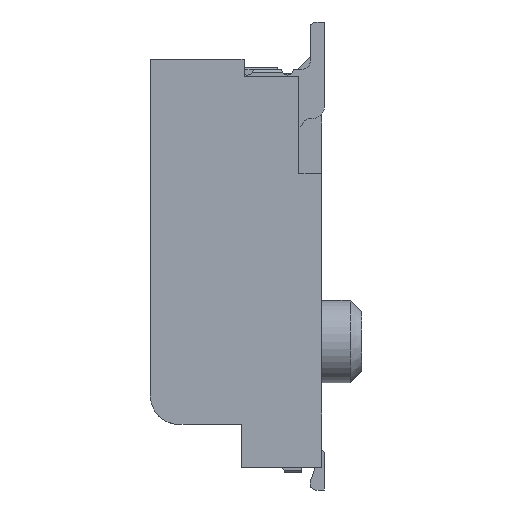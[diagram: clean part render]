
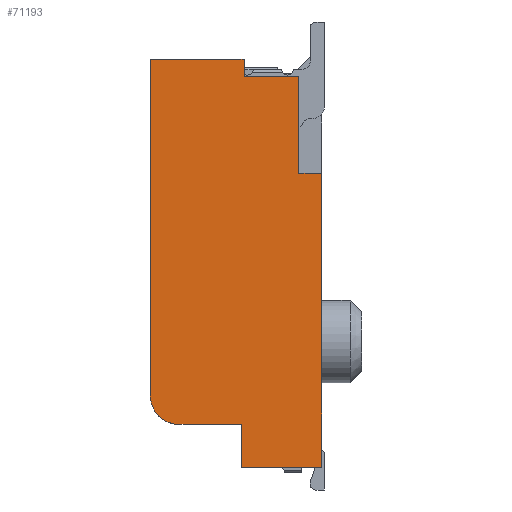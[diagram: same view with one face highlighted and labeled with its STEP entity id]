
A CAD part, left-side view. The second image highlights one B-rep face of the part: STEP entity #71193.
In plain terms, the highlighted planar face has unit normal (-1, 0, 0).
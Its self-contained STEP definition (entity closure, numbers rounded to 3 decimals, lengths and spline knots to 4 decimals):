
#445=DIRECTION('',(0.,1.,0.));
#446=VECTOR('',#445,0.96);
#447=CARTESIAN_POINT('',(-17.09,1.1,-0.95));
#448=LINE('',#447,#446);
#1551=DIRECTION('',(0.,0.,-1.));
#1552=VECTOR('',#1551,5.15);
#1553=CARTESIAN_POINT('',(-17.09,0.7,-2.65));
#1554=LINE('',#1553,#1552);
#1555=DIRECTION('',(0.,1.,0.));
#1556=VECTOR('',#1555,1.4);
#1557=CARTESIAN_POINT('',(-17.09,0.7,-7.8));
#1558=LINE('',#1557,#1556);
#1559=CARTESIAN_POINT('',(-17.09,3.2,-6.55));
#1560=DIRECTION('',(1.,0.,0.));
#1561=DIRECTION('',(0.,0.,-1.));
#1562=AXIS2_PLACEMENT_3D('',#1559,#1560,#1561);
#1564=DIRECTION('',(0.,-1.,0.));
#1565=VECTOR('',#1564,1.64);
#1566=CARTESIAN_POINT('',(-17.09,3.7,-0.65));
#1567=LINE('',#1566,#1565);
#1572=DIRECTION('',(0.,1.,0.));
#1573=VECTOR('',#1572,0.4);
#1574=CARTESIAN_POINT('',(-17.09,0.7,-2.65));
#1575=LINE('',#1574,#1573);
#1860=DIRECTION('',(0.,0.,1.));
#1861=VECTOR('',#1860,1.7);
#1862=CARTESIAN_POINT('',(-17.09,1.1,-2.65));
#1863=LINE('',#1862,#1861);
#20703=DIRECTION('',(0.,0.,-1.));
#20704=VECTOR('',#20703,5.9);
#20705=CARTESIAN_POINT('',(-17.09,3.7,-0.65));
#20706=LINE('',#20705,#20704);
#23802=DIRECTION('',(0.,-1.,0.));
#23803=VECTOR('',#23802,1.1);
#23804=CARTESIAN_POINT('',(-17.09,3.2,-7.05));
#23805=LINE('',#23804,#23803);
#23819=DIRECTION('',(0.,0.,-1.));
#23820=VECTOR('',#23819,0.75);
#23821=CARTESIAN_POINT('',(-17.09,2.1,-7.05));
#23822=LINE('',#23821,#23820);
#29805=DIRECTION('',(0.,0.,1.));
#29806=VECTOR('',#29805,0.3);
#29807=CARTESIAN_POINT('',(-17.09,2.06,-0.95));
#29808=LINE('',#29807,#29806);
#52438=CARTESIAN_POINT('',(-17.09,3.7,-0.65));
#52439=VERTEX_POINT('',#52438);
#52440=CARTESIAN_POINT('',(-17.09,3.7,-6.55));
#52441=VERTEX_POINT('',#52440);
#55708=CARTESIAN_POINT('',(-17.09,0.7,-7.8));
#55709=CARTESIAN_POINT('',(-17.09,2.1,-7.8));
#55710=VERTEX_POINT('',#55708);
#55711=VERTEX_POINT('',#55709);
#55718=CARTESIAN_POINT('',(-17.09,0.7,-2.65));
#55719=CARTESIAN_POINT('',(-17.09,1.1,-2.65));
#55720=VERTEX_POINT('',#55718);
#55721=VERTEX_POINT('',#55719);
#55722=CARTESIAN_POINT('',(-17.09,2.1,-7.05));
#55723=VERTEX_POINT('',#55722);
#55724=CARTESIAN_POINT('',(-17.09,3.2,-7.05));
#55725=VERTEX_POINT('',#55724);
#55726=CARTESIAN_POINT('',(-17.09,2.06,-0.65));
#55727=VERTEX_POINT('',#55726);
#55728=CARTESIAN_POINT('',(-17.09,2.06,-0.95));
#55729=VERTEX_POINT('',#55728);
#55730=CARTESIAN_POINT('',(-17.09,1.1,-0.95));
#55731=VERTEX_POINT('',#55730);
#71167=CARTESIAN_POINT('',(-17.09,2.2,-4.225));
#71168=DIRECTION('',(1.,0.,0.));
#71169=DIRECTION('',(0.,0.,-1.));
#71170=AXIS2_PLACEMENT_3D('',#71167,#71168,#71169);
#71171=PLANE('',#71170);
#71173=ORIENTED_EDGE('',*,*,#71172,.F.);
#71174=ORIENTED_EDGE('',*,*,#71095,.T.);
#71175=ORIENTED_EDGE('',*,*,#70401,.T.);
#71177=ORIENTED_EDGE('',*,*,#71176,.F.);
#71179=ORIENTED_EDGE('',*,*,#71178,.F.);
#71181=ORIENTED_EDGE('',*,*,#71180,.T.);
#71183=ORIENTED_EDGE('',*,*,#71182,.F.);
#71185=ORIENTED_EDGE('',*,*,#71184,.T.);
#71187=ORIENTED_EDGE('',*,*,#71186,.F.);
#71188=ORIENTED_EDGE('',*,*,#68117,.F.);
#71190=ORIENTED_EDGE('',*,*,#71189,.F.);
#71191=EDGE_LOOP('',(#71173,#71174,#71175,#71177,#71179,#71181,#71183,#71185,
#71187,#71188,#71190));
#71192=FACE_OUTER_BOUND('',#71191,.F.);
#1563=CIRCLE('',#1562,0.5);
#68117=EDGE_CURVE('',#55731,#55729,#448,.T.);
#70401=EDGE_CURVE('',#55710,#55711,#1558,.T.);
#71095=EDGE_CURVE('',#55720,#55710,#1554,.T.);
#71172=EDGE_CURVE('',#55720,#55721,#1575,.T.);
#71176=EDGE_CURVE('',#55723,#55711,#23822,.T.);
#71178=EDGE_CURVE('',#55725,#55723,#23805,.T.);
#71180=EDGE_CURVE('',#55725,#52441,#1563,.T.);
#71182=EDGE_CURVE('',#52439,#52441,#20706,.T.);
#71184=EDGE_CURVE('',#52439,#55727,#1567,.T.);
#71186=EDGE_CURVE('',#55729,#55727,#29808,.T.);
#71189=EDGE_CURVE('',#55721,#55731,#1863,.T.);
#71193=ADVANCED_FACE('',(#71192),#71171,.F.);
